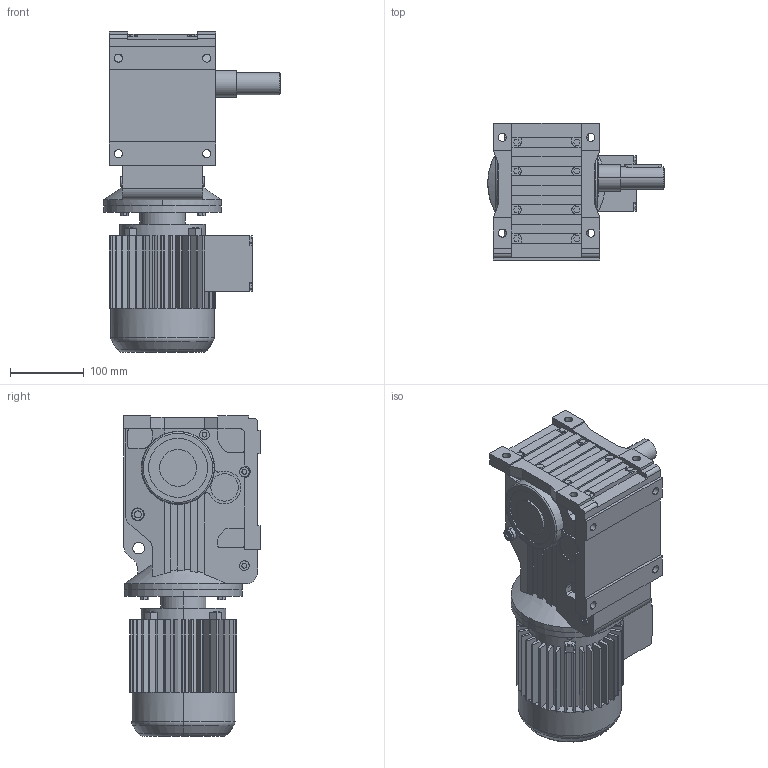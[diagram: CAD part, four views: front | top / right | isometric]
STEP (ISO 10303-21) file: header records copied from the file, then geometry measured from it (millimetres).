
FILE_DESCRIPTION(('Open CASCADE Model'),'2;1');
FILE_NAME('Open CASCADE Shape Model','2021-06-18T10:13:19',('Author'),( 'Open CASCADE'),'Open CASCADE STEP processor 6.3','Open CASCADE 6.3' ,'Unknown');
FILE_SCHEMA(('AUTOMOTIVE_DESIGN_CC2 { 1 2 10303 214 -1 1 5 4 }'));
Length unit declared in the file: millimetre
Products named in the file (4): 1_K47DT71D-A; K37‵157_47.step; 萇儂_160-DT71D-199-263-145-122.step; す瑩妗陑粣K_47.step
Assembly tree (3 placements, depth 2):
  1_K47DT71D-A
    K37‵157_47.step
    萇儂_160-DT71D-199-263-145-122.step
    す瑩妗陑粣K_47.step
Bounding box: 240 x 186 x 436 mm (x, y, z)
Volume: 7600007.4 mm3; surface area: 531926.3 mm2
Topology: 3 solids, 3 shells, 834 faces, 2199 edges, 1428 vertices
Faces by surface type: plane 582, cylinder 230, cone 14, torus 8
Entity records: 57219 total; most frequent: CARTESIAN_POINT 15418, DIRECTION 7207, ORIENTED_EDGE 4394, PCURVE 4394, DEFINITIONAL_REPRESENTATION 4394, LINE 3929, VECTOR 3929, EDGE_CURVE 2197
